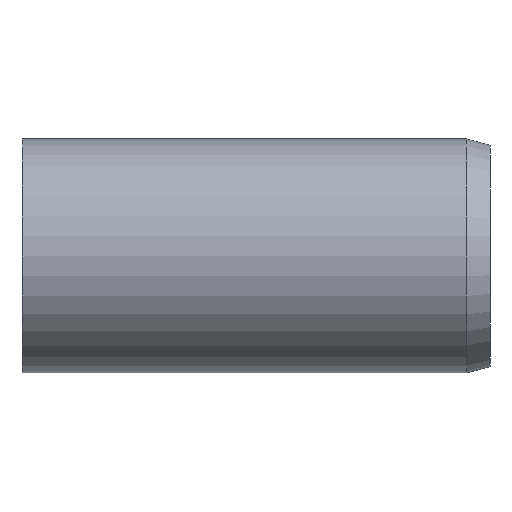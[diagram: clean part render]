
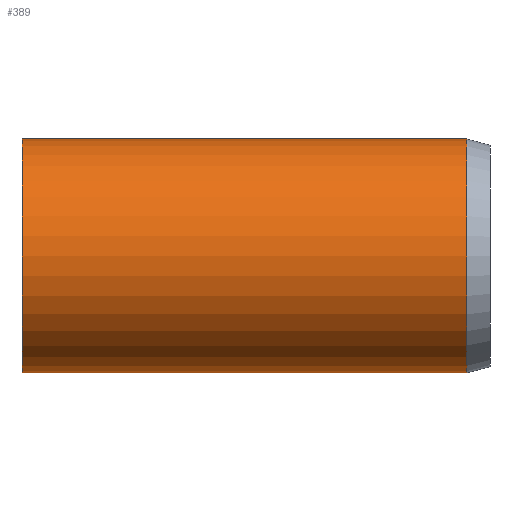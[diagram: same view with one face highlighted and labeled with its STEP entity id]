
A CAD part, left-side view. The second image highlights one B-rep face of the part: STEP entity #389.
In plain terms, the highlighted cylindrical face has radius 5 mm (diameter 10 mm), a partial arc.
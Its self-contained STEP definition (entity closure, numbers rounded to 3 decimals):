
#16 = ORIENTED_EDGE ( 'NONE', *, *, #172, .T. ) ;
#22 = VECTOR ( 'NONE', #264, 1000. ) ;
#29 = DIRECTION ( 'NONE',  ( 0., -1., 0. ) ) ;
#57 = CIRCLE ( 'NONE', #231, 5. ) ;
#71 = EDGE_CURVE ( 'NONE', #228, #93, #57, .T. ) ;
#83 = DIRECTION ( 'NONE',  ( 0., 0., -1. ) ) ;
#93 = VERTEX_POINT ( 'NONE', #97 ) ;
#97 = CARTESIAN_POINT ( 'NONE',  ( 0., 1., -5. ) ) ;
#109 = ORIENTED_EDGE ( 'NONE', *, *, #313, .F. ) ;
#131 = CARTESIAN_POINT ( 'NONE',  ( 0., 0., 5. ) ) ;
#153 = CARTESIAN_POINT ( 'NONE',  ( 0., 0., -5. ) ) ;
#172 = EDGE_CURVE ( 'NONE', #317, #93, #273, .T. ) ;
#174 = DIRECTION ( 'NONE',  ( 0., 0., -1. ) ) ;
#182 = CARTESIAN_POINT ( 'NONE',  ( 0., 1., 5. ) ) ;
#183 = CARTESIAN_POINT ( 'NONE',  ( 0., 0., 0. ) ) ;
#225 = CYLINDRICAL_SURFACE ( 'NONE', #277, 5. ) ;
#228 = VERTEX_POINT ( 'NONE', #182 ) ;
#231 = AXIS2_PLACEMENT_3D ( 'NONE', #400, #258, #83 ) ;
#258 = DIRECTION ( 'NONE',  ( 0., -1., 0. ) ) ;
#261 = VERTEX_POINT ( 'NONE', #327 ) ;
#262 = CARTESIAN_POINT ( 'NONE',  ( 0., 20., -5. ) ) ;
#264 = DIRECTION ( 'NONE',  ( 0., -1., 0. ) ) ;
#269 = AXIS2_PLACEMENT_3D ( 'NONE', #302, #29, #174 ) ;
#273 = LINE ( 'NONE', #153, #299 ) ;
#277 = AXIS2_PLACEMENT_3D ( 'NONE', #183, #322, #310 ) ;
#294 = FACE_OUTER_BOUND ( 'NONE', #460, .T. ) ;
#296 = ORIENTED_EDGE ( 'NONE', *, *, #465, .T. ) ;
#299 = VECTOR ( 'NONE', #419, 1000. ) ;
#302 = CARTESIAN_POINT ( 'NONE',  ( 0., 20., 0. ) ) ;
#310 = DIRECTION ( 'NONE',  ( 0., 0., -1. ) ) ;
#313 = EDGE_CURVE ( 'NONE', #261, #228, #406, .T. ) ;
#317 = VERTEX_POINT ( 'NONE', #262 ) ;
#322 = DIRECTION ( 'NONE',  ( 0., -1., 0. ) ) ;
#327 = CARTESIAN_POINT ( 'NONE',  ( 0., 20., 5. ) ) ;
#389 = ADVANCED_FACE ( 'NONE', ( #294 ), #225, .T. ) ;
#400 = CARTESIAN_POINT ( 'NONE',  ( 0., 1., 0. ) ) ;
#405 = ORIENTED_EDGE ( 'NONE', *, *, #71, .F. ) ;
#406 = LINE ( 'NONE', #131, #22 ) ;
#419 = DIRECTION ( 'NONE',  ( 0., -1., 0. ) ) ;
#454 = CIRCLE ( 'NONE', #269, 5. ) ;
#460 = EDGE_LOOP ( 'NONE', ( #109, #296, #16, #405 ) ) ;
#465 = EDGE_CURVE ( 'NONE', #261, #317, #454, .T. ) ;
